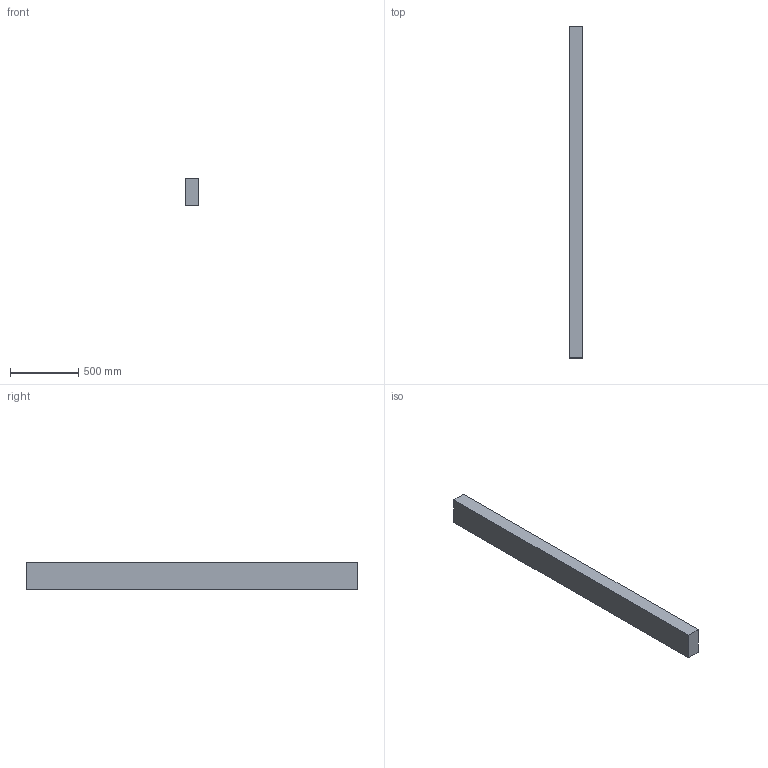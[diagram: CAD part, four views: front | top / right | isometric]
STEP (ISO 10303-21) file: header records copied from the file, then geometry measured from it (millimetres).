
FILE_DESCRIPTION(/* description */ (''),/* implementation_level */ '2;1');
FILE_NAME(/* name */ '4x8x96',/* time_stamp */ '2024-09-20T11:45:54-05:00',/* author */ (''),/* organization */ (''),/* preprocessor_version */ 'ST-DEVELOPER v19.2',/* originating_system */ 'Rhino 8.5',/* authorisation */ '');
FILE_SCHEMA (('CONFIG_CONTROL_DESIGN'));
Length unit declared in the file: inch
Products named in the file (1): Document
Bounding box: 101.6 x 2438.4 x 203.2 mm (x, y, z)
Volume: 50341060.6 mm3; surface area: 1527738.9 mm2
Topology: 1 solids, 1 shells, 6 faces, 12 edges, 8 vertices
Faces by surface type: plane 6
Entity records: 226 total; most frequent: CARTESIAN_POINT 40, ORIENTED_EDGE 24, EDGE_CURVE 12, B_SPLINE_CURVE_WITH_KNOTS 12, DIRECTION 10, VERTEX_POINT 8, AXIS2_PLACEMENT_3D 8, ORGANIZATION 7
